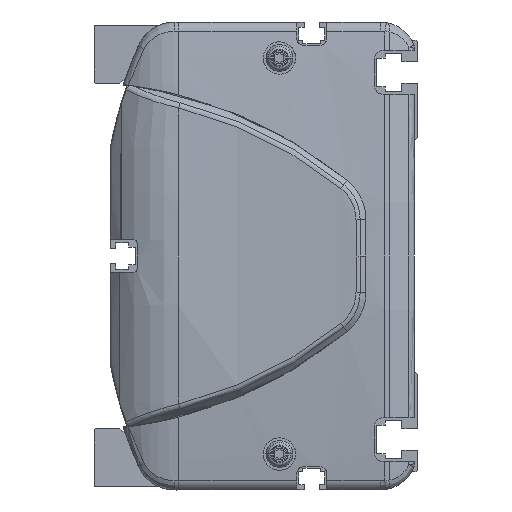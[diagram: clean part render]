
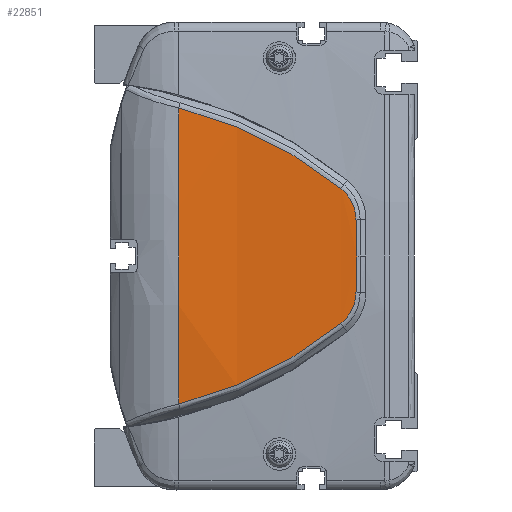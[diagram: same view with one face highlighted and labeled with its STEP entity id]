
A CAD part, left-side view. The second image highlights one B-rep face of the part: STEP entity #22851.
In plain terms, the highlighted cylindrical face has radius 500 mm (diameter 1000 mm), a partial arc.
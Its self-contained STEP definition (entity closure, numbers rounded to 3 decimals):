
#7230=CARTESIAN_POINT('',(486.,66.362,0.));
#7231=DIRECTION('',(0.,-1.,0.));
#7232=DIRECTION('',(-0.997,0.,0.082));
#7233=AXIS2_PLACEMENT_3D('',#7230,#7231,#7232);
#7284=CARTESIAN_POINT('',(-13.648,21.313,
-18.759));
#7285=CARTESIAN_POINT('',(-13.449,27.904,
-24.058));
#7286=CARTESIAN_POINT('',(-12.934,42.195,
-33.27));
#7287=CARTESIAN_POINT('',(-12.471,58.156,
-39.127));
#7288=CARTESIAN_POINT('',(-12.306,66.362,
-41.121));
#7290=CARTESIAN_POINT('',(-12.306,66.362,41.121));
#7291=CARTESIAN_POINT('',(-12.471,58.156,39.127));
#7292=CARTESIAN_POINT('',(-12.934,42.195,33.27));
#7293=CARTESIAN_POINT('',(-13.449,27.904,24.058));
#7294=CARTESIAN_POINT('',(-13.648,21.313,18.759));
#7296=CARTESIAN_POINT('',(-13.648,21.313,18.759));
#7297=CARTESIAN_POINT('',(-13.686,20.035,17.736));
#7298=CARTESIAN_POINT('',(-13.779,17.936,15.107));
#7299=CARTESIAN_POINT('',(-13.863,17.152,11.827));
#7300=CARTESIAN_POINT('',(-13.896,17.124,10.178));
#7302=CARTESIAN_POINT('',(-13.896,17.124,10.178));
#7303=CARTESIAN_POINT('',(-13.92,17.107,9.022));
#7304=CARTESIAN_POINT('',(-13.959,17.067,6.725));
#7305=CARTESIAN_POINT('',(-13.993,16.979,3.331));
#7306=CARTESIAN_POINT('',(-14.,16.898,1.104));
#7307=CARTESIAN_POINT('',(-14.,16.849,
0.));
#7309=CARTESIAN_POINT('',(-14.,16.849,
0.));
#7310=CARTESIAN_POINT('',(-14.,16.898,
-1.104));
#7311=CARTESIAN_POINT('',(-13.993,16.979,
-3.331));
#7312=CARTESIAN_POINT('',(-13.959,17.067,
-6.724));
#7313=CARTESIAN_POINT('',(-13.92,17.107,
-9.024));
#7314=CARTESIAN_POINT('',(-13.896,17.124,
-10.18));
#7316=CARTESIAN_POINT('',(-13.896,17.124,
-10.18));
#7317=CARTESIAN_POINT('',(-13.863,17.152,
-11.828));
#7318=CARTESIAN_POINT('',(-13.779,17.937,
-15.109));
#7319=CARTESIAN_POINT('',(-13.686,20.035,
-17.736));
#7320=CARTESIAN_POINT('',(-13.648,21.313,
-18.759));
#10631=VERTEX_POINT('',#7284);
#10632=VERTEX_POINT('',#7288);
#10633=CARTESIAN_POINT('',(-12.306,66.362,
41.121));
#10634=VERTEX_POINT('',#10633);
#10635=VERTEX_POINT('',#7294);
#10636=VERTEX_POINT('',#7300);
#10637=VERTEX_POINT('',#7307);
#10638=VERTEX_POINT('',#7314);
#22831=CARTESIAN_POINT('',(486.,8.006,0.));
#22832=DIRECTION('',(0.,1.,0.));
#22833=DIRECTION('',(1.,0.,0.));
#22834=AXIS2_PLACEMENT_3D('',#22831,#22832,#22833);
#22835=CYLINDRICAL_SURFACE('',#22834,500.);
#22837=ORIENTED_EDGE('',*,*,#22836,.T.);
#22838=ORIENTED_EDGE('',*,*,#22805,.F.);
#22840=ORIENTED_EDGE('',*,*,#22839,.T.);
#22842=ORIENTED_EDGE('',*,*,#22841,.T.);
#22844=ORIENTED_EDGE('',*,*,#22843,.T.);
#22846=ORIENTED_EDGE('',*,*,#22845,.T.);
#22848=ORIENTED_EDGE('',*,*,#22847,.T.);
#22849=EDGE_LOOP('',(#22837,#22838,#22840,#22842,#22844,#22846,#22848));
#22850=FACE_OUTER_BOUND('',#22849,.F.);
#22851=ADVANCED_FACE('',(#22850),#22835,.T.);
#7234=CIRCLE('',#7233,500.);
#7289=B_SPLINE_CURVE_WITH_KNOTS('',3,(#7284,#7285,#7286,#7287,#7288),
.UNSPECIFIED.,.F.,.F.,(4,1,4),(0.,0.5,1.),.UNSPECIFIED.);
#7295=B_SPLINE_CURVE_WITH_KNOTS('',3,(#7290,#7291,#7292,#7293,#7294),
.UNSPECIFIED.,.F.,.F.,(4,1,4),(0.,0.5,1.),.UNSPECIFIED.);
#7301=B_SPLINE_CURVE_WITH_KNOTS('',3,(#7296,#7297,#7298,#7299,#7300),
.UNSPECIFIED.,.F.,.F.,(4,1,4),(0.,0.5,1.),.UNSPECIFIED.);
#7308=B_SPLINE_CURVE_WITH_KNOTS('',3,(#7302,#7303,#7304,#7305,#7306,#7307),
.UNSPECIFIED.,.F.,.F.,(4,1,1,4),(0.,0.333,0.667,1.),
.UNSPECIFIED.);
#7315=B_SPLINE_CURVE_WITH_KNOTS('',3,(#7309,#7310,#7311,#7312,#7313,#7314),
.UNSPECIFIED.,.F.,.F.,(4,1,1,4),(0.,0.333,0.667,1.),
.UNSPECIFIED.);
#7321=B_SPLINE_CURVE_WITH_KNOTS('',3,(#7316,#7317,#7318,#7319,#7320),
.UNSPECIFIED.,.F.,.F.,(4,1,4),(0.,0.5,1.),.UNSPECIFIED.);
#22805=EDGE_CURVE('',#10634,#10632,#7234,.T.);
#22836=EDGE_CURVE('',#10631,#10632,#7289,.T.);
#22839=EDGE_CURVE('',#10634,#10635,#7295,.T.);
#22841=EDGE_CURVE('',#10635,#10636,#7301,.T.);
#22843=EDGE_CURVE('',#10636,#10637,#7308,.T.);
#22845=EDGE_CURVE('',#10637,#10638,#7315,.T.);
#22847=EDGE_CURVE('',#10638,#10631,#7321,.T.);
